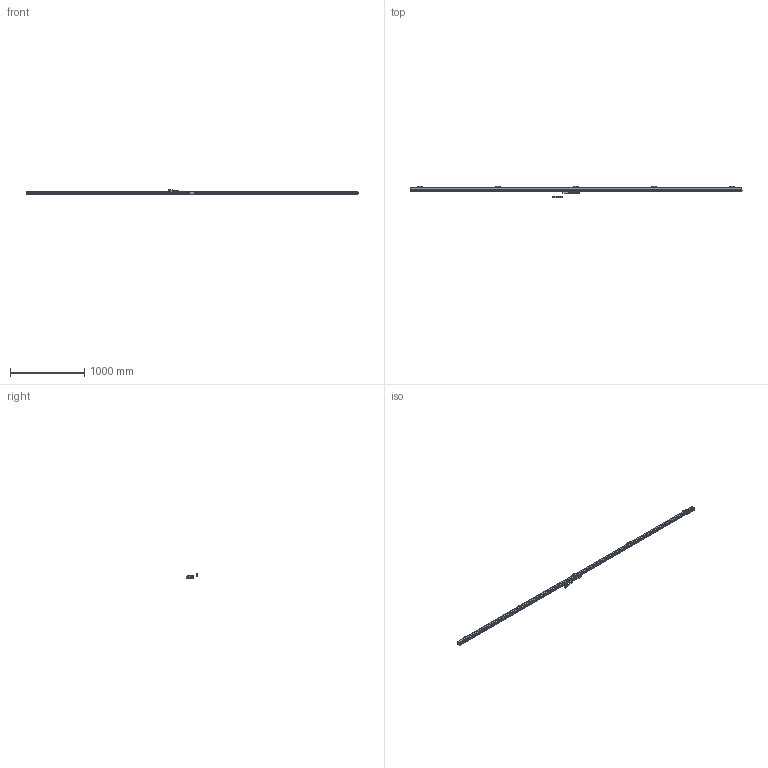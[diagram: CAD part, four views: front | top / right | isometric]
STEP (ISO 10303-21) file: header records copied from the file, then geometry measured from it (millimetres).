
FILE_DESCRIPTION(('Creo Elements/Direct Modeling STEP Export'),'2;1');
FILE_NAME('AT103_AT203-4250.stp','2018-01-05T15:50:00',(''),(''),'Creo Elements/Direct Modeling STEP processor for AP214 (Solid Model)','Creo Elements/Direct Modeling 18.1B 29-Sep-2012 (C) Parametric Technology GmbH','');
FILE_SCHEMA(('AUTOMOTIVE_DESIGN { 1 0 10303 214 1 1 1 1 }'));
Length unit declared in the file: millimetre
Products named in the file (5): Cable; Scale_4250; Cable.1; DetectorHead; AT103_AT203-4250
Assembly tree (4 placements, depth 2):
  AT103_AT203-4250
    DetectorHead
    Cable.1
    Scale_4250
    Cable
Bounding box: 4470 x 150.63 x 68 mm (x, y, z)
Volume: 7553595.8 mm3; surface area: 995164.6 mm2
Topology: 4 solids, 4 shells, 1401 faces, 3542 edges, 2219 vertices
Faces by surface type: plane 812, cylinder 390, cone 106, torus 52, sphere 16, extrusion 16, bspline 5, revolution 4
Entity records: 43320 total; most frequent: CARTESIAN_POINT 8068, ORIENTED_EDGE 7050, DIRECTION 6267, EDGE_CURVE 3525, VECTOR 2221, VERTEX_POINT 2219, LINE 2215, AXIS2_PLACEMENT_3D 2020
